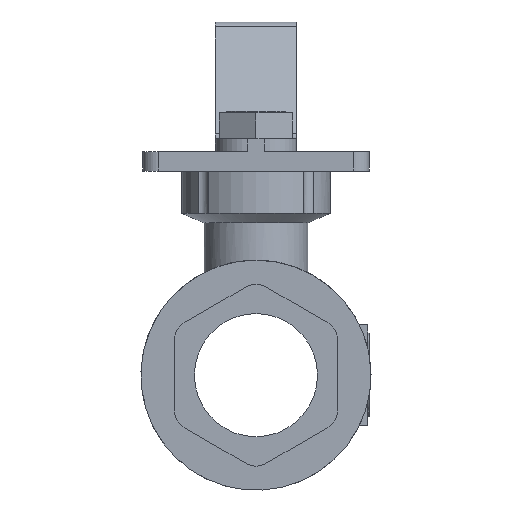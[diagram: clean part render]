
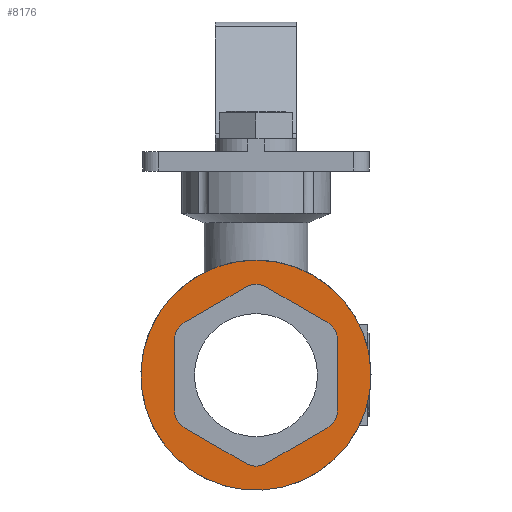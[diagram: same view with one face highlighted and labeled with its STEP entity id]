
A CAD part, front view. The second image highlights one B-rep face of the part: STEP entity #8176.
In plain terms, the highlighted planar face has unit normal (0, -1, 0).
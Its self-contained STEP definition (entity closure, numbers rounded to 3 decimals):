
#8176=ADVANCED_FACE('',(#14885,#14887),#14889,.T.);
#14885=FACE_BOUND('',#14886,.T.);
#14886=EDGE_LOOP('',(#20439,#20440));
#14887=FACE_BOUND('',#14888,.T.);
#14888=EDGE_LOOP('',(#20441,#20442,#20443,#20444,#20445,#20446,#20447,#20448,#20449,
#20450,#20451,#20452));
#14889=PLANE('',#14890);
#14890=AXIS2_PLACEMENT_3D('',#14891,#14892,#14893);
#14891=CARTESIAN_POINT('',(2404.658,1634.345,-1.248));
#14892=DIRECTION('',(0.,-1.,0.));
#14893=DIRECTION('',(1.,0.,0.));
#20439=ORIENTED_EDGE('',*,*,#23335,.F.);
#20440=ORIENTED_EDGE('',*,*,#23334,.F.);
#20441=ORIENTED_EDGE('',*,*,#23315,.T.);
#20442=ORIENTED_EDGE('',*,*,#23318,.T.);
#20443=ORIENTED_EDGE('',*,*,#23290,.T.);
#20444=ORIENTED_EDGE('',*,*,#23296,.T.);
#20445=ORIENTED_EDGE('',*,*,#23307,.T.);
#20446=ORIENTED_EDGE('',*,*,#23310,.T.);
#20447=ORIENTED_EDGE('',*,*,#23311,.T.);
#20448=ORIENTED_EDGE('',*,*,#23314,.T.);
#20449=ORIENTED_EDGE('',*,*,#23319,.T.);
#20450=ORIENTED_EDGE('',*,*,#23322,.T.);
#20451=ORIENTED_EDGE('',*,*,#23323,.T.);
#20452=ORIENTED_EDGE('',*,*,#23325,.T.);
#23290=EDGE_CURVE('',#27753,#27754,#27755,.T.);
#23296=EDGE_CURVE('',#27754,#27763,#27765,.T.);
#23307=EDGE_CURVE('',#27763,#27785,#27786,.T.);
#23310=EDGE_CURVE('',#27785,#27788,#27790,.T.);
#23311=EDGE_CURVE('',#27788,#27791,#27792,.T.);
#23314=EDGE_CURVE('',#27791,#27794,#27796,.T.);
#23315=EDGE_CURVE('',#27797,#27798,#27799,.T.);
#23318=EDGE_CURVE('',#27798,#27753,#27802,.T.);
#23319=EDGE_CURVE('',#27794,#27803,#27804,.T.);
#23322=EDGE_CURVE('',#27803,#27806,#27808,.T.);
#23323=EDGE_CURVE('',#27806,#27809,#27810,.T.);
#23325=EDGE_CURVE('',#27809,#27797,#27812,.T.);
#23334=EDGE_CURVE('',#27828,#27829,#27830,.T.);
#23335=EDGE_CURVE('',#27829,#27828,#27831,.T.);
#27753=VERTEX_POINT('',#37535);
#27754=VERTEX_POINT('',#37536);
#27755=CIRCLE('',#37537,6.);
#27763=VERTEX_POINT('',#37557);
#27765=LINE('',#37561,#37562);
#27785=VERTEX_POINT('',#37608);
#27786=CIRCLE('',#37609,6.);
#27788=VERTEX_POINT('',#37616);
#27790=LINE('',#37620,#37621);
#27791=VERTEX_POINT('',#37623);
#27792=CIRCLE('',#37624,6.);
#27794=VERTEX_POINT('',#37631);
#27796=LINE('',#37635,#37636);
#27797=VERTEX_POINT('',#37638);
#27798=VERTEX_POINT('',#37639);
#27799=CIRCLE('',#37640,6.);
#27802=LINE('',#37650,#37651);
#27803=VERTEX_POINT('',#37653);
#27804=CIRCLE('',#37654,6.);
#27806=VERTEX_POINT('',#37661);
#27808=LINE('',#37665,#37666);
#27809=VERTEX_POINT('',#37668);
#27810=CIRCLE('',#37669,6.);
#27812=LINE('',#37676,#37677);
#27828=VERTEX_POINT('',#37778);
#27829=VERTEX_POINT('',#37779);
#27830=CIRCLE('',#37780,35.5);
#27831=CIRCLE('',#37784,35.5);
#37535=CARTESIAN_POINT('',(2407.658,1634.345,-64.016));
#37536=CARTESIAN_POINT('',(2401.658,1634.345,-64.016));
#37537=AXIS2_PLACEMENT_3D('',#37538,#37539,#37540);
#37538=CARTESIAN_POINT('',(2404.658,1634.345,-58.82));
#37539=DIRECTION('',(0.,1.,0.));
#37540=DIRECTION('',(0.5,0.,-0.866));
#37557=CARTESIAN_POINT('',(2382.543,1634.345,-52.98));
#37561=CARTESIAN_POINT('',(2401.658,1634.345,-64.016));
#37562=VECTOR('',#37563,1.);
#37563=DIRECTION('',(-0.866,0.,0.5));
#37608=CARTESIAN_POINT('',(2379.543,1634.345,-47.784));
#37609=AXIS2_PLACEMENT_3D('',#37610,#37611,#37612);
#37610=CARTESIAN_POINT('',(2385.543,1634.345,-47.784));
#37611=DIRECTION('',(0.,1.,0.));
#37612=DIRECTION('',(-0.5,0.,-0.866));
#37616=CARTESIAN_POINT('',(2379.543,1634.345,-25.712));
#37620=CARTESIAN_POINT('',(2379.543,1634.345,-47.784));
#37621=VECTOR('',#37622,1.);
#37622=DIRECTION('',(0.,0.,1.));
#37623=CARTESIAN_POINT('',(2382.543,1634.345,-20.516));
#37624=AXIS2_PLACEMENT_3D('',#37625,#37626,#37627);
#37625=CARTESIAN_POINT('',(2385.543,1634.345,-25.712));
#37626=DIRECTION('',(0.,1.,0.));
#37627=DIRECTION('',(-1.,0.,0.));
#37631=CARTESIAN_POINT('',(2401.658,1634.345,-9.48));
#37635=CARTESIAN_POINT('',(2382.543,1634.345,-20.516));
#37636=VECTOR('',#37637,1.);
#37637=DIRECTION('',(0.866,0.,0.5));
#37638=CARTESIAN_POINT('',(2429.773,1634.345,-47.784));
#37639=CARTESIAN_POINT('',(2426.773,1634.345,-52.98));
#37640=AXIS2_PLACEMENT_3D('',#37641,#37642,#37643);
#37641=CARTESIAN_POINT('',(2423.773,1634.345,-47.784));
#37642=DIRECTION('',(0.,1.,0.));
#37643=DIRECTION('',(1.,0.,0.));
#37650=CARTESIAN_POINT('',(2426.773,1634.345,-52.98));
#37651=VECTOR('',#37652,1.);
#37652=DIRECTION('',(-0.866,0.,-0.5));
#37653=CARTESIAN_POINT('',(2407.658,1634.345,-9.48));
#37654=AXIS2_PLACEMENT_3D('',#37655,#37656,#37657);
#37655=CARTESIAN_POINT('',(2404.658,1634.345,-14.677));
#37656=DIRECTION('',(0.,1.,0.));
#37657=DIRECTION('',(-0.5,0.,0.866));
#37661=CARTESIAN_POINT('',(2426.773,1634.345,-20.516));
#37665=CARTESIAN_POINT('',(2407.658,1634.345,-9.48));
#37666=VECTOR('',#37667,1.);
#37667=DIRECTION('',(0.866,0.,-0.5));
#37668=CARTESIAN_POINT('',(2429.773,1634.345,-25.712));
#37669=AXIS2_PLACEMENT_3D('',#37670,#37671,#37672);
#37670=CARTESIAN_POINT('',(2423.773,1634.345,-25.712));
#37671=DIRECTION('',(0.,1.,0.));
#37672=DIRECTION('',(0.5,0.,0.866));
#37676=CARTESIAN_POINT('',(2429.773,1634.345,-25.712));
#37677=VECTOR('',#37678,1.);
#37678=DIRECTION('',(0.,0.,-1.));
#37778=CARTESIAN_POINT('',(2404.658,1634.345,-1.248));
#37779=CARTESIAN_POINT('',(2400.763,1634.345,-72.034));
#37780=AXIS2_PLACEMENT_3D('',#37781,#37782,#37783);
#37781=CARTESIAN_POINT('',(2404.658,1634.345,-36.748));
#37782=DIRECTION('',(0.,1.,0.));
#37783=DIRECTION('',(0.,0.,1.));
#37784=AXIS2_PLACEMENT_3D('',#37785,#37786,#37787);
#37785=CARTESIAN_POINT('',(2404.658,1634.345,-36.748));
#37786=DIRECTION('',(0.,1.,0.));
#37787=DIRECTION('',(-0.11,0.,-0.994));
